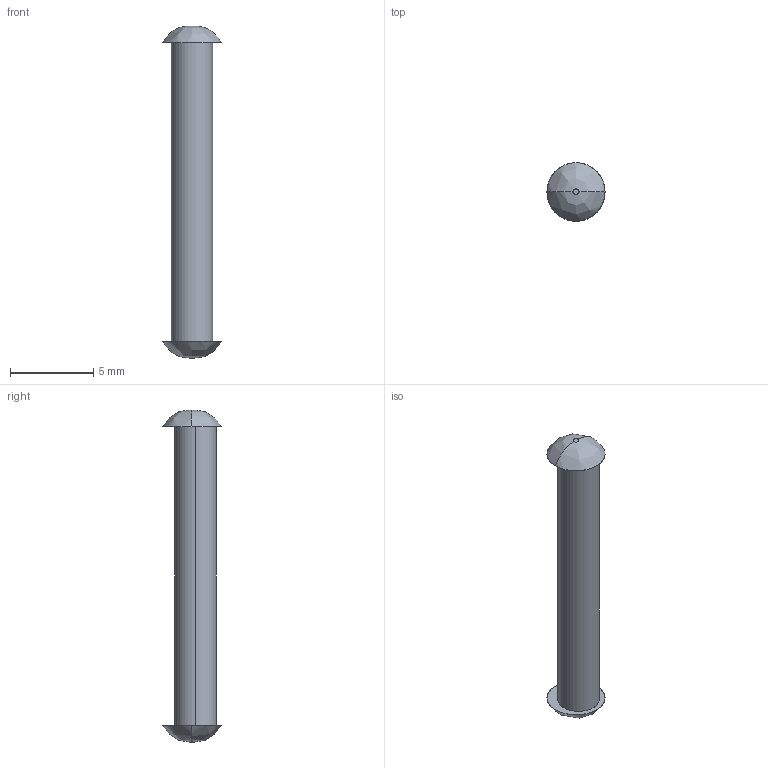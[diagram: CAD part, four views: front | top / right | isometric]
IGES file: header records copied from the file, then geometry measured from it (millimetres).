
Start section: SolidWorks IGES FILE using analytic representation for surfaces
Global section: file name: C:\Documents and Settings\lecoutey\Bureau\GP 2029\2075.110.00.IGS; native system: SolidWorks 2004 by SolidWorks Corporation; preprocessor: Version 5.3; author: lecoutey; date: 050329.160413; units: millimetre
Bounding box: 3.5 x 3.5 x 20 mm (x, y, z)
Surface area: 177.2 mm2 (no closed solid volume)
Topology: 0 solids, 0 shells, 10 faces, 184 edges, 184 vertices
Faces by surface type: bspline 8, revolution 2
